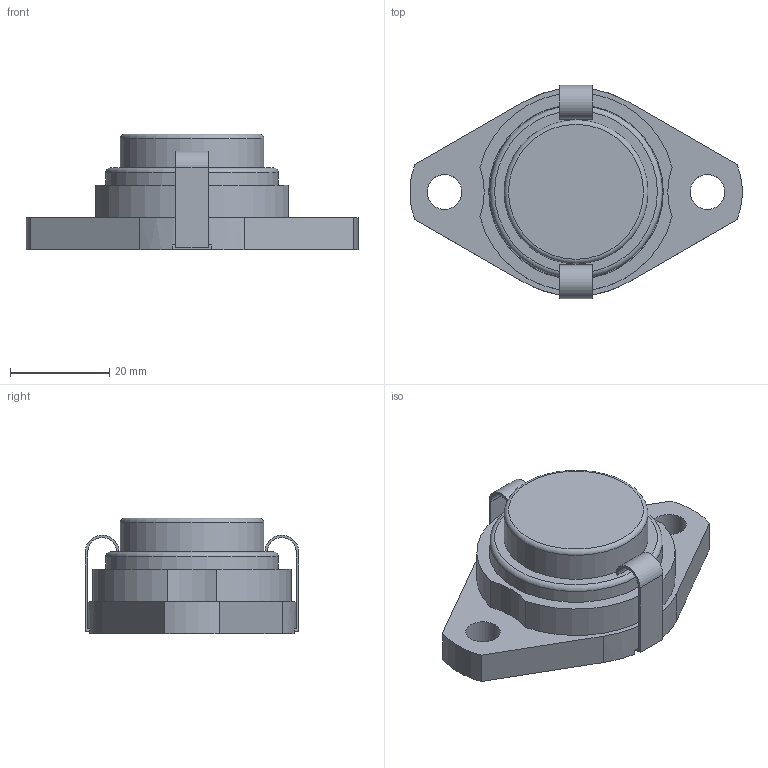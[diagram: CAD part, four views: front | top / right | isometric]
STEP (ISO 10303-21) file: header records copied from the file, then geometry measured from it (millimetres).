
FILE_DESCRIPTION(/* description */ (''),/* implementation_level */ '2;1');
FILE_NAME(/* name */ '\\192.168.10.238\j-cad-d-base\00.3DCADデータ作成フォルダ\11.エコシリーズ\MUSFL000\MUSFL002E.stp',/* time_stamp */ '2024-03-14T15:05:59+09:00',/* author */ ('UGijyutu_200703'),/* organization */ (''),/* preprocessor_version */ 'ST-DEVELOPER v18',/* originating_system */ 'Autodesk Inventor 2020',/* authorisation */ '');
FILE_SCHEMA (('AUTOMOTIVE_DESIGN { 1 0 10303 214 3 1 1 }'));
Length unit declared in the file: millimetre
Products named in the file (5): MUSFL002E; SFL002; U002; 002CPE; 2-3CLL
Assembly tree (5 placements, depth 2):
  MUSFL002E
    SFL002
    U002
    002CPE
    2-3CLL  x2
Bounding box: 66.92 x 43 x 23.3 mm (x, y, z)
Volume: 16674.7 mm3; surface area: 14358.2 mm2
Topology: 5 solids, 5 shells, 107 faces, 283 edges, 196 vertices
Faces by surface type: plane 60, cylinder 38, torus 4, cone 3, sphere 2
Full cylindrical faces by diameter (mm): 3.5 x1, 4 x1, 7 x2, 15 x1, 20.1 x1, 22 x1, 28.4 x1, 29 x1, 34.2 x1, 34.8 x1, 35.2 x1
Entity records: 3442 total; most frequent: CARTESIAN_POINT 681, DIRECTION 589, ORIENTED_EDGE 518, EDGE_CURVE 259, AXIS2_PLACEMENT_3D 230, VERTEX_POINT 180, LINE 129, VECTOR 129
